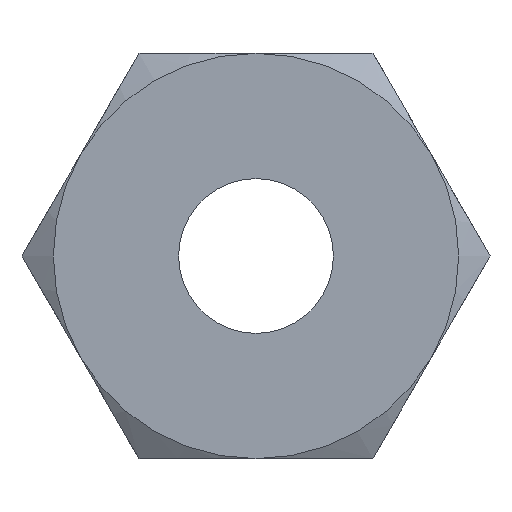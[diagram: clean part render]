
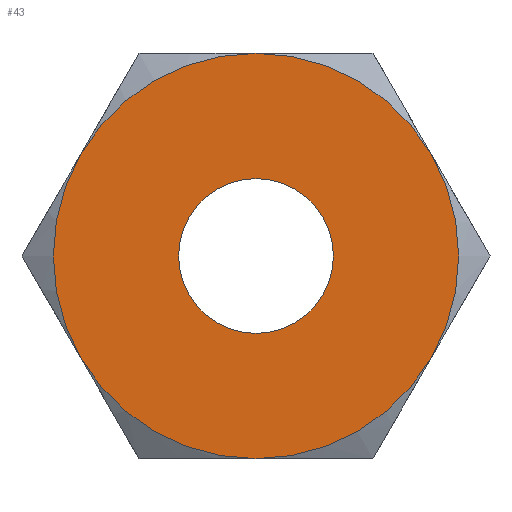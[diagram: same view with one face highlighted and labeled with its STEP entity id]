
A CAD part, front view. The second image highlights one B-rep face of the part: STEP entity #43.
In plain terms, the highlighted planar face has unit normal (0, -1, 0).
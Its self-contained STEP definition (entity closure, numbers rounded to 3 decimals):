
#32 = EDGE_LOOP ( 'NONE', ( #33, #57, #54, #53, #49, #50 ) ) ;
#33 = ORIENTED_EDGE ( 'NONE', *, *, #35, .T. ) ;
#34 = EDGE_CURVE ( 'NONE', #299, #298, #364, .T. ) ;
#35 = EDGE_CURVE ( 'NONE', #208, #239, #359, .T. ) ;
#36 = ORIENTED_EDGE ( 'NONE', *, *, #297, .T. ) ;
#40 = ORIENTED_EDGE ( 'NONE', *, *, #34, .T. ) ;
#43 = ADVANCED_FACE ( 'NONE', ( #409, #408 ), #407, .F. ) ;
#45 = EDGE_LOOP ( 'NONE', ( #40, #36 ) ) ;
#48 = EDGE_CURVE ( 'NONE', #267, #208, #389, .T. ) ;
#49 = ORIENTED_EDGE ( 'NONE', *, *, #51, .T. ) ;
#50 = ORIENTED_EDGE ( 'NONE', *, *, #48, .T. ) ;
#51 = EDGE_CURVE ( 'NONE', #271, #267, #390, .T. ) ;
#52 = EDGE_CURVE ( 'NONE', #190, #271, #442, .T. ) ;
#53 = ORIENTED_EDGE ( 'NONE', *, *, #52, .T. ) ;
#54 = ORIENTED_EDGE ( 'NONE', *, *, #56, .T. ) ;
#56 = EDGE_CURVE ( 'NONE', #172, #190, #437, .T. ) ;
#57 = ORIENTED_EDGE ( 'NONE', *, *, #58, .T. ) ;
#58 = EDGE_CURVE ( 'NONE', #239, #172, #432, .T. ) ;
#172 = VERTEX_POINT ( 'NONE', #635 ) ;
#190 = VERTEX_POINT ( 'NONE', #697 ) ;
#208 = VERTEX_POINT ( 'NONE', #765 ) ;
#239 = VERTEX_POINT ( 'NONE', #805 ) ;
#267 = VERTEX_POINT ( 'NONE', #854 ) ;
#271 = VERTEX_POINT ( 'NONE', #909 ) ;
#297 = EDGE_CURVE ( 'NONE', #298, #299, #992, .T. ) ;
#298 = VERTEX_POINT ( 'NONE', #987 ) ;
#299 = VERTEX_POINT ( 'NONE', #986 ) ;
#355 = DIRECTION ( 'NONE',  ( 0., 0., 1. ) ) ;
#356 = DIRECTION ( 'NONE',  ( 0., -1., 0. ) ) ;
#357 = CARTESIAN_POINT ( 'NONE',  ( 0., 0., 0. ) ) ;
#358 = AXIS2_PLACEMENT_3D ( 'NONE', #357, #356, #355 ) ;
#359 = CIRCLE ( 'NONE', #358, 11. ) ;
#360 = DIRECTION ( 'NONE',  ( 0., 0., 1. ) ) ;
#361 = DIRECTION ( 'NONE',  ( 0., 1., 0. ) ) ;
#362 = CARTESIAN_POINT ( 'NONE',  ( 0., 0., 0. ) ) ;
#363 = AXIS2_PLACEMENT_3D ( 'NONE', #362, #361, #360 ) ;
#364 = CIRCLE ( 'NONE', #363, 4.2 ) ;
#385 = DIRECTION ( 'NONE',  ( 0., 0., 1. ) ) ;
#386 = DIRECTION ( 'NONE',  ( 0., -1., 0. ) ) ;
#387 = CARTESIAN_POINT ( 'NONE',  ( 0., 0., 0. ) ) ;
#388 = AXIS2_PLACEMENT_3D ( 'NONE', #387, #386, #385 ) ;
#389 = CIRCLE ( 'NONE', #388, 11. ) ;
#390 = CIRCLE ( 'NONE', #446, 11. ) ;
#402 = DIRECTION ( 'NONE',  ( 0., 0., 1. ) ) ;
#403 = DIRECTION ( 'NONE',  ( 0., 1., 0. ) ) ;
#404 = CARTESIAN_POINT ( 'NONE',  ( 12.702, 0., 0. ) ) ;
#406 = AXIS2_PLACEMENT_3D ( 'NONE', #404, #403, #402 ) ;
#407 = PLANE ( 'NONE',  #406 ) ;
#408 = FACE_OUTER_BOUND ( 'NONE', #32, .T. ) ;
#409 = FACE_BOUND ( 'NONE', #45, .T. ) ;
#428 = DIRECTION ( 'NONE',  ( 0., 0., 1. ) ) ;
#429 = DIRECTION ( 'NONE',  ( 0., -1., 0. ) ) ;
#430 = CARTESIAN_POINT ( 'NONE',  ( 0., 0., 0. ) ) ;
#431 = AXIS2_PLACEMENT_3D ( 'NONE', #430, #429, #428 ) ;
#432 = CIRCLE ( 'NONE', #431, 11. ) ;
#433 = DIRECTION ( 'NONE',  ( 0., 0., 1. ) ) ;
#434 = DIRECTION ( 'NONE',  ( 0., -1., 0. ) ) ;
#435 = CARTESIAN_POINT ( 'NONE',  ( 0., 0., 0. ) ) ;
#436 = AXIS2_PLACEMENT_3D ( 'NONE', #435, #434, #433 ) ;
#437 = CIRCLE ( 'NONE', #436, 11. ) ;
#438 = DIRECTION ( 'NONE',  ( 0., 0., 1. ) ) ;
#439 = DIRECTION ( 'NONE',  ( 0., -1., 0. ) ) ;
#440 = CARTESIAN_POINT ( 'NONE',  ( 0., 0., 0. ) ) ;
#441 = AXIS2_PLACEMENT_3D ( 'NONE', #440, #439, #438 ) ;
#442 = CIRCLE ( 'NONE', #441, 11. ) ;
#443 = DIRECTION ( 'NONE',  ( 0., 0., -1. ) ) ;
#444 = DIRECTION ( 'NONE',  ( 0., -1., 0. ) ) ;
#445 = CARTESIAN_POINT ( 'NONE',  ( 0., 0., 0. ) ) ;
#446 = AXIS2_PLACEMENT_3D ( 'NONE', #445, #444, #443 ) ;
#635 = CARTESIAN_POINT ( 'NONE',  ( -9.526, 0., 5.5 ) ) ;
#697 = CARTESIAN_POINT ( 'NONE',  ( -9.526, 0., -5.5 ) ) ;
#765 = CARTESIAN_POINT ( 'NONE',  ( 9.526, 0., 5.5 ) ) ;
#805 = CARTESIAN_POINT ( 'NONE',  ( 0., 0., 11. ) ) ;
#854 = CARTESIAN_POINT ( 'NONE',  ( 9.526, 0., -5.5 ) ) ;
#909 = CARTESIAN_POINT ( 'NONE',  ( 0., 0., -11. ) ) ;
#986 = CARTESIAN_POINT ( 'NONE',  ( 0., 0., 4.2 ) ) ;
#987 = CARTESIAN_POINT ( 'NONE',  ( 0., 0., -4.2 ) ) ;
#988 = DIRECTION ( 'NONE',  ( 0., 0., 1. ) ) ;
#989 = DIRECTION ( 'NONE',  ( 0., 1., 0. ) ) ;
#990 = CARTESIAN_POINT ( 'NONE',  ( 0., 0., 0. ) ) ;
#991 = AXIS2_PLACEMENT_3D ( 'NONE', #990, #989, #988 ) ;
#992 = CIRCLE ( 'NONE', #991, 4.2 ) ;
